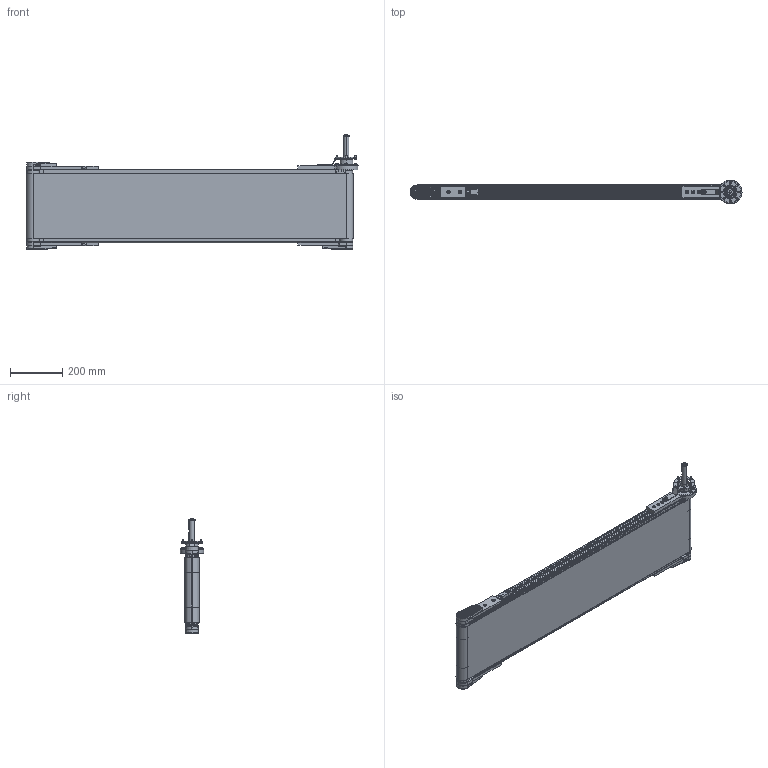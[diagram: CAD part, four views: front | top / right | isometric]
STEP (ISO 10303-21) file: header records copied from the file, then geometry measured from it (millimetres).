
FILE_DESCRIPTION (( 'STEP AP203' ), '1' );
FILE_NAME ('NASTRO_RETTILINEO_TAPPETO.step', '2026-06-03T08:03:13', ( 'Utente Windows' ), ( '' ), 'SwSTEP 2.0', 'SolidWorks 2024', '' );
FILE_SCHEMA (( 'CONFIG_CONTROL_DESIGN' ));
Length unit declared in the file: millimetre
Products named in the file (40): 084.301.000 VITI ALUSIC_084.301.003; CHIAVETTE_A 6x6x30 UNI 6604-69; BLOCCO_TRAINO_50_STANDARD_WA20_DX; VITE_RONDELLA_M8X20; RONDELLE FASCIA LARGA UNI 6593_6.4x24 UNI 6593; TELAIO_50_STANDARD_Default<A macchina>; NASTRO_RETTILINEO_TAPPETO; VITI TSEI UNI 5933_M5x12 UNI 5933; 084.303.001; BLOCCO_BRACCIO_WA20_WA20; 084.802.071; VITI TE UNI 5739_M6x12 UNI 5739; VITI TE UNI 5739_M6x16 UNI 5739; LAMIERA_STANDARD; VITI TSEI UNI 5933_M4x10 UNI 5933; 084.802.008; 084.811.009; RULLO_50_Default<A macchina>; 084.802.017_084.802.017; 084.302.000 DADI ALUSIC 13x13-1_084.302.007; TAPPETO_STANDARD; 084.302.000 DADI ALUSIC 13x13_084.302.004; 084.802.065_Default<A macchina>; BLOCCO_PERNO_50_RINVIO; VITI TSEI UNI 5933 INOX_0412UNI5933A2; BLOCCO_PERNO_50_WA20; 084.810.001; BLOCCO_RINVIO_50_STANDARD; 084.807.002_084.807.002; 084.802.062; 084.807.001_084.807.001; 084.802.060_Default<A macchina>; BLOCCO_TRAINO_50_STANDARD; 084.811.004; VITI TCEI UNI 5931_M4x25 UNI 5931; 084.802.034_084.802.034; CHIAVETTE_A 5x5x20 UNI 6604-69; VITE_DADO_M5X12; 084.302.000 DADI ALUSIC 13x13-1_084.302.004; 084.808.012
Assembly tree (81 placements, depth 4):
  NASTRO_RETTILINEO_TAPPETO
    TAPPETO_STANDARD
    TELAIO_50_STANDARD_Default<A macchina>
    LAMIERA_STANDARD
    RULLO_50_Default<A macchina>  x2
    BLOCCO_PERNO_50_WA20
      084.810.001
      084.811.009
      RONDELLE FASCIA LARGA UNI 6593_6.4x24 UNI 6593
      VITI TE UNI 5739_M6x12 UNI 5739
      CHIAVETTE_A 5x5x20 UNI 6604-69
      CHIAVETTE_A 6x6x30 UNI 6604-69  x2
    BLOCCO_TRAINO_50_STANDARD_WA20_DX
      084.807.001_084.807.001
      084.802.034_084.802.034
      084.301.000 VITI ALUSIC_084.301.003  x2
      084.302.000 DADI ALUSIC 13x13-1_084.302.004  x2
      BLOCCO_BRACCIO_WA20_WA20
        084.808.012
        084.802.062
        VITI TE UNI 5739_M6x16 UNI 5739  x4
        084.802.060_Default<A macchina>
        VITI TE UNI 5739_M6x12 UNI 5739  x4
      084.802.065_Default<A macchina>
      VITI TCEI UNI 5931_M4x25 UNI 5931  x2
    BLOCCO_PERNO_50_RINVIO  x3
      084.811.004
      084.810.001
    BLOCCO_TRAINO_50_STANDARD
      084.807.002_084.807.002
      084.802.017_084.802.017
      084.301.000 VITI ALUSIC_084.301.003  x2
      084.302.000 DADI ALUSIC 13x13-1_084.302.004  x2
      084.802.071
      VITI TSEI UNI 5933 INOX_0412UNI5933A2  x2
    BLOCCO_RINVIO_50_STANDARD  x2
      084.807.002_084.807.002
      084.802.017_084.802.017
      084.802.008
      084.301.000 VITI ALUSIC_084.301.003
      084.302.000 DADI ALUSIC 13x13_084.302.004
      VITI TSEI UNI 5933_M4x10 UNI 5933
      084.802.071
    VITE_RONDELLA_M8X20  x5
      084.303.001
      084.301.000 VITI ALUSIC_084.301.003
    VITE_DADO_M5X12  x8
      084.302.000 DADI ALUSIC 13x13-1_084.302.007
      VITI TSEI UNI 5933_M5x12 UNI 5933
Bounding box: 1272 x 90 x 440.5 mm (x, y, z)
Volume: 4588466.4 mm3; surface area: 4276561.3 mm2
Topology: 121 solids, 124 shells, 5548 faces, 14383 edges, 9193 vertices
Faces by surface type: plane 2620, cylinder 1605, cone 531, bspline 437, torus 311, sphere 44
Entity records: 112009 total; most frequent: CARTESIAN_POINT 31956, ORIENTED_EDGE 16328, DIRECTION 14822, EDGE_CURVE 8164, VERTEX_POINT 5253, AXIS2_PLACEMENT_3D 5109, VECTOR 4604, LINE 4604
